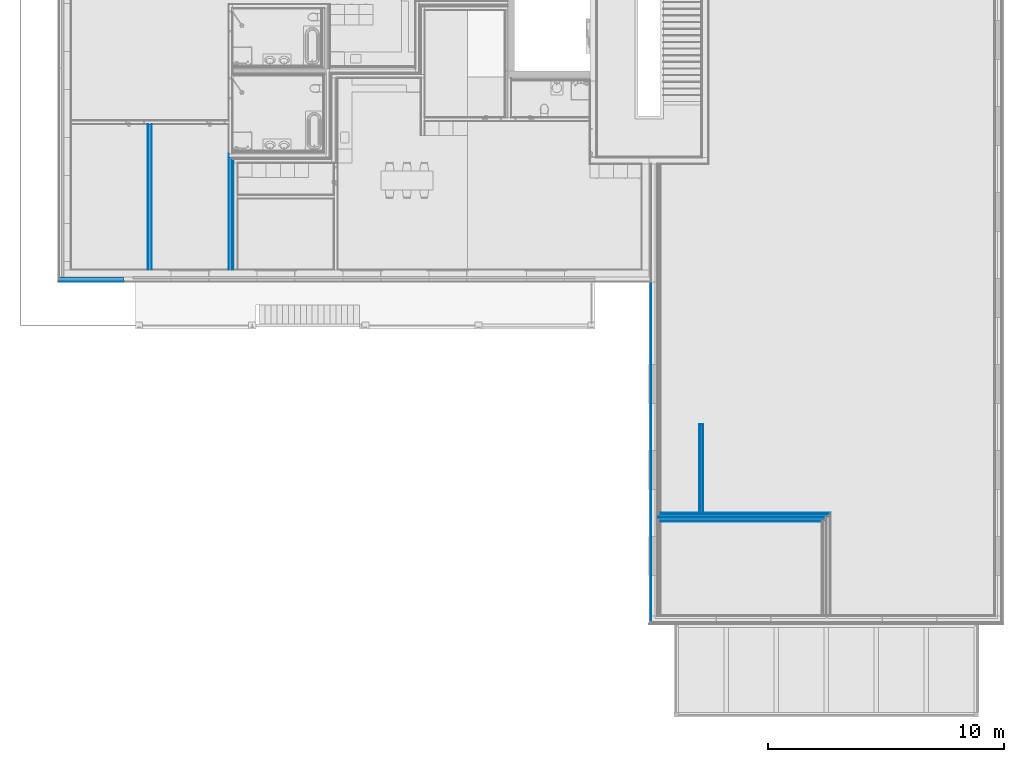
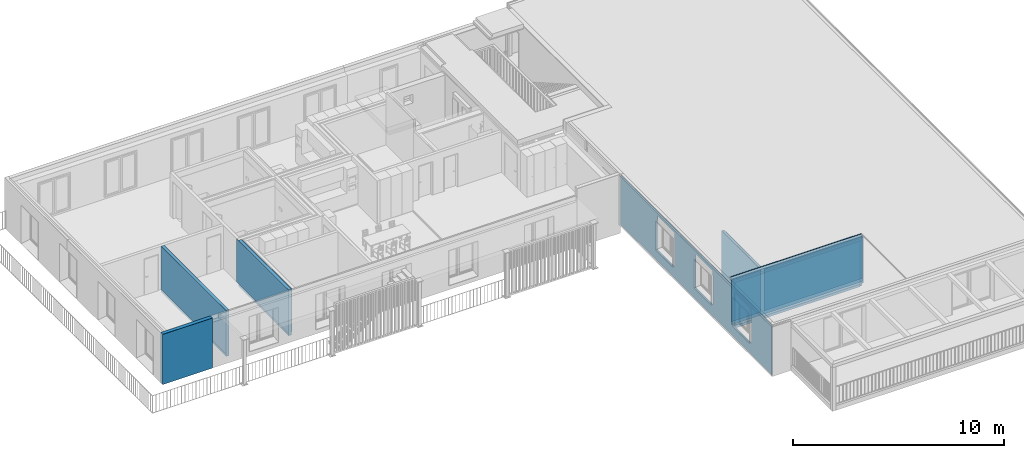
# One storey, part 3 of 34: 22 building element parts, 3 openings, 7 elements without a shape of their own.
"""IFC4 building model written with IfcOpenShell, lengths in millimetres."""

import ifcopenshell
import ifcopenshell.guid

model = None  # the IFC model being written
_history = None  # IfcOwnerHistory: only IFC2X3 demands one
_inside = {}  # id of a spatial element -> (the spatial element, [elements in it])
_under = {}  # id of a project, library or spatial element -> (it, [spatial elements below it])
_declared = {}  # id of a project -> (the project, [libraries it declares])
_typed = {}  # id of a type object -> (the type object, [elements of that type])
_made_of = {}  # id of a material, layer set ... -> (it, [elements and type objects made of it])


def new_model(schema):
    """Start an empty IFC model of exactly this schema.

    Asked for "IFC4X3", IfcOpenShell would pick the latest addendum, in which some entities
    have other attributes; the version numbers below select the first issue.
    IFC2X3 requires an IfcOwnerHistory on every rooted entity: one is made here for all.
    """
    global model, _history
    if schema == "IFC4X3":
        model = ifcopenshell.file(schema_version=(4, 3, 0, 0))
    else:
        model = ifcopenshell.file(schema=schema)
    _inside.clear()
    _under.clear()
    _declared.clear()
    _typed.clear()
    _made_of.clear()
    _history = None
    if model.schema == "IFC2X3":
        org = make("IfcOrganization", Name="unknown")
        user = make(
            "IfcPersonAndOrganization",
            ThePerson=make("IfcPerson", FamilyName="unknown"),
            TheOrganization=org,
        )
        app = make(
            "IfcApplication",
            ApplicationDeveloper=org,
            Version="unknown",
            ApplicationFullName="unknown",
            ApplicationIdentifier="unknown",
        )
        _history = make(
            "IfcOwnerHistory",
            OwningUser=user,
            OwningApplication=app,
            ChangeAction="ADDED",
            CreationDate=0,
        )
    return model


def make(cls, **values):
    """One entity of the class cls with the attributes given. An attribute that is None is left unset."""
    return model.create_entity(
        cls, **{name: value for name, value in values.items() if value is not None}
    )


def entity(cls, *values):
    """Any entity or typed value of the class cls, its attributes in the order of the schema. None: left unset."""
    e = model.create_entity(cls)
    for i, value in enumerate(values):
        if value is not None:
            e[i] = value
    return e


def rooted(cls, **values):
    """An entity with a GlobalId (a new one), such as an element, a storey or a relation."""
    return make(cls, GlobalId=ifcopenshell.guid.new(), OwnerHistory=_history, **values)


def si_unit(unit_type, name, prefix=None):
    """IfcSIUnit, for example si_unit("LENGTHUNIT", "METRE", prefix="MILLI")."""
    return make("IfcSIUnit", UnitType=unit_type, Prefix=prefix, Name=name)


def converted_unit(unit_type, name, factor, base, dimensions=None, offset=None):
    """IfcConversionBasedUnit, such as the inch: factor (a typed value) times the base unit."""
    return make(
        "IfcConversionBasedUnit"
        if offset is None
        else "IfcConversionBasedUnitWithOffset",
        ConversionOffset=offset,
        Dimensions=None
        if dimensions is None
        else entity("IfcDimensionalExponents", *dimensions),
        UnitType=unit_type,
        Name=name,
        ConversionFactor=make(
            "IfcMeasureWithUnit", ValueComponent=factor, UnitComponent=base
        ),
    )


def derived_unit(unit_type, elements):
    """IfcDerivedUnit: a product of units, each with its exponent."""
    return make(
        "IfcDerivedUnit",
        Elements=[
            make("IfcDerivedUnitElement", Unit=unit, Exponent=power)
            for unit, power in elements
        ],
        UnitType=unit_type,
    )


def assignment(units):
    """IfcUnitAssignment: the units of a project."""
    return None if units is None else make("IfcUnitAssignment", Units=units)


def point(xyz):
    """IfcCartesianPoint."""
    return None if xyz is None else make("IfcCartesianPoint", Coordinates=xyz)


def direction(xyz):
    """IfcDirection."""
    return None if xyz is None else make("IfcDirection", DirectionRatios=xyz)


def frame(location, z_axis=None, x_axis=None):
    """IfcAxis2Placement3D, a coordinate frame: its origin and axes. An axis left out is left unset."""
    return make(
        "IfcAxis2Placement3D",
        Location=point(location),
        Axis=direction(z_axis),
        RefDirection=direction(x_axis),
    )


def origin_with_axes():
    """The frame at (0, 0, 0) with the z axis (0, 0, 1) and the x axis (1, 0, 0) written out."""
    return frame((0.0, 0.0, 0.0), z_axis=(0.0, 0.0, 1.0), x_axis=(1.0, 0.0, 0.0))


def place(relative_to, where):
    """IfcLocalPlacement: puts the frame where relative to a parent placement (None: the world)."""
    return make(
        "IfcLocalPlacement", PlacementRelTo=relative_to, RelativePlacement=where
    )


def context(
    kind, dimensions, precision=None, world=None, true_north=None, identifier=None
):
    """IfcGeometricRepresentationContext, for example the 3D "Model" context."""
    return make(
        "IfcGeometricRepresentationContext",
        ContextIdentifier=identifier,
        ContextType=kind,
        CoordinateSpaceDimension=dimensions,
        Precision=precision,
        WorldCoordinateSystem=world,
        TrueNorth=true_north,
    )


def subcontext(parent, identifier, kind, view, scale=None):
    """IfcGeometricRepresentationSubContext, for example "Body" below "Model"."""
    return make(
        "IfcGeometricRepresentationSubContext",
        ContextIdentifier=identifier,
        ContextType=kind,
        ParentContext=parent,
        TargetScale=scale,
        TargetView=view,
    )


def project(units=None, contexts=None):
    """IfcProject with its units and contexts."""
    return rooted(
        "IfcProject",
        Name="project",
        RepresentationContexts=contexts,
        UnitsInContext=assignment(units),
    )


def spatial(cls, under=None, at=None, **own):
    """A site, building, storey or space (cls), placed at a placement, below another one or the project."""
    s = rooted(cls, ObjectPlacement=at, **own)
    if under is not None:
        _under.setdefault(under.id(), (under, []))[1].append(s)
    return s


def point_list(points):
    """IfcCartesianPointList2D or 3D."""
    cls = (
        "IfcCartesianPointList2D" if len(points[0]) == 2 else "IfcCartesianPointList3D"
    )
    return make(cls, CoordList=points)


def polygons(points, faces, closed=None, point_numbers=None):
    """IfcPolygonalFaceSet: a face is its outer loop, then its inner loops; points numbered from 1."""
    made = []
    for loops in faces:
        if len(loops) == 1:
            made.append(make("IfcIndexedPolygonalFace", CoordIndex=loops[0]))
        else:
            made.append(
                make(
                    "IfcIndexedPolygonalFaceWithVoids",
                    CoordIndex=loops[0],
                    InnerCoordIndices=loops[1:],
                )
            )
    return make(
        "IfcPolygonalFaceSet",
        Coordinates=point_list(points),
        Closed=closed,
        Faces=made,
        PnIndex=point_numbers,
    )


def shape(context_of_items, identifier, shape_type, items):
    """IfcShapeRepresentation: the items that make up one representation, for example the "Body"."""
    return make(
        "IfcShapeRepresentation",
        ContextOfItems=context_of_items,
        RepresentationIdentifier=identifier,
        RepresentationType=shape_type,
        Items=items,
    )


def material(Name=None, Category=None):
    """IfcMaterial."""
    return make("IfcMaterial", Name=Name, Category=Category)


def made_of(thing, what):
    """Note that an element or type object is made of a material, layer set ...; save() writes the relation."""
    if what is not None:
        _made_of.setdefault(what.id(), (what, []))[1].append(thing)
    return thing


def type_object(cls, material=None, **own):
    """A type object (cls), such as IfcWallType, which elements share."""
    return made_of(rooted(cls, **own), material)


def element(
    cls,
    number,
    at=None,
    inside=None,
    cuts=None,
    type_object=None,
    material=None,
    context=None,
    identifier="Body",
    shape_type=None,
    held_by="IfcProductDefinitionShape",
    body=None,
    shapes=None,
    **own,
):
    """One element of the class cls, such as IfcWall. Its Tag is "e" and its number.

    at: its placement. inside: the storey or other place that contains it. cuts: it is an
    opening in that element (IfcRelVoidsElement). A single representation is given by context,
    identifier, shape_type and body (its items); several are given by shapes. held_by: the class
    of the entity that holds the representations. save() writes the other relations.
    """
    e = rooted(cls, Tag="e%d" % number, ObjectPlacement=at, **own)
    if body is not None:
        shapes = [shape(context, identifier, shape_type, body)]
    if shapes is not None:
        e.Representation = make(held_by, Representations=shapes)
    if inside is not None:
        _inside.setdefault(inside.id(), (inside, []))[1].append(e)
    if cuts is not None:
        rooted(
            "IfcRelVoidsElement", RelatingBuildingElement=cuts, RelatedOpeningElement=e
        )
    if type_object is not None:
        _typed.setdefault(type_object.id(), (type_object, []))[1].append(e)
    return made_of(e, material)


def aggregate(whole, parts):
    """IfcRelAggregates: a whole, such as a stair, and the parts it consists of."""
    return rooted("IfcRelAggregates", RelatingObject=whole, RelatedObjects=parts)


def save(model, path):
    """Write the relations noted so far, then the file.

    IfcRelAggregates (storeys below a building ...), IfcRelContainedInSpatialStructure (elements
    in a storey), IfcRelDefinesByType, IfcRelAssociatesMaterial and IfcRelDeclares: one each for
    every whole, place, type object, material and project.
    """
    for whole, parts in _under.values():
        aggregate(whole, parts)
    for where, things in _inside.values():
        rooted(
            "IfcRelContainedInSpatialStructure",
            RelatedElements=things,
            RelatingStructure=where,
        )
    for kind, things in _typed.values():
        rooted("IfcRelDefinesByType", RelatedObjects=things, RelatingType=kind)
    for what, things in _made_of.values():
        rooted("IfcRelAssociatesMaterial", RelatedObjects=things, RelatingMaterial=what)
    for by, libraries in _declared.values():
        rooted("IfcRelDeclares", RelatingContext=by, RelatedDefinitions=libraries)
    model.write(path)


model = new_model("IFC4")

# Units and contexts
model_context = context("Model", 3, precision=0.01, world=origin_with_axes(), true_north=direction((0.0, 1.0)))
body_context = subcontext(model_context, "Body", "Model", "MODEL_VIEW")
ifc_project = project(units=[si_unit("LENGTHUNIT", "METRE", prefix="MILLI"), si_unit("AREAUNIT", "SQUARE_METRE"), si_unit("VOLUMEUNIT", "CUBIC_METRE"), converted_unit("PLANEANGLEUNIT", "DEGREE", entity("IfcPlaneAngleMeasure", 0.0174532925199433), si_unit("PLANEANGLEUNIT", "RADIAN"), dimensions=[0, 0, 0, 0, 0, 0, 0]), converted_unit("TIMEUNIT", "Year", entity("IfcTimeMeasure", 31557600.0), si_unit("TIMEUNIT", "SECOND"), dimensions=[0, 0, 1, 0, 0, 0, 0]), si_unit("MASSUNIT", "GRAM", prefix="KILO"), si_unit("THERMODYNAMICTEMPERATUREUNIT", "DEGREE_CELSIUS"), si_unit("LUMINOUSINTENSITYUNIT", "LUMEN"), si_unit("ENERGYUNIT", "JOULE", prefix="MEGA"), derived_unit("THERMALCONDUCTANCEUNIT", [(si_unit("POWERUNIT", "WATT"), 1), (si_unit("LENGTHUNIT", "METRE"), -1), (si_unit("THERMODYNAMICTEMPERATUREUNIT", "KELVIN"), -1)]), derived_unit("SPECIFICHEATCAPACITYUNIT", [(si_unit("ENERGYUNIT", "JOULE"), 1), (si_unit("MASSUNIT", "GRAM", prefix="KILO"), -1), (si_unit("THERMODYNAMICTEMPERATUREUNIT", "KELVIN"), -1)]), derived_unit("MASSDENSITYUNIT", [(si_unit("MASSUNIT", "GRAM", prefix="KILO"), 1), (si_unit("VOLUMEUNIT", "CUBIC_METRE"), -1)])], contexts=[model_context])

# Site, building, storey
site_placement = place(None, origin_with_axes())
site = spatial("IfcSite", under=ifc_project, at=site_placement, Name="Gelände", CompositionType="ELEMENT")
building_placement = place(site_placement, origin_with_axes())
building = spatial("IfcBuilding", under=site, at=building_placement, Name="Gebäude", CompositionType="ELEMENT")
storey_placement = place(building_placement, frame((0.0, 0.0, 5799.999999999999), z_axis=(0.0, 0.0, 1.0), x_axis=(1.0, 0.0, 0.0)))
storey = spatial("IfcBuildingStorey", under=building, at=storey_placement, Name="2.OG", CompositionType="ELEMENT", Elevation=5800.0)

# Curtain wall, building element parts
curtain_wall_type = type_object("IfcCurtainWallType", Name="Fassade Typ 01 - Kompaktfassade 210", PredefinedType="NOTDEFINED")
curtain_wall_placement = place(storey_placement, frame((-7071.004181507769, 22947.59674077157, 0.0), z_axis=(0.0, 0.0, 1.0), x_axis=(1.0, 0.0, 0.0)))
curtain_wall = element("IfcCurtainWall", 1, at=curtain_wall_placement, inside=storey, type_object=curtain_wall_type, Name="Wand-014", PredefinedType="NOTDEFINED")
ifc_material_1 = material(Name="Dämmung Aussen")
building_element_part_1_placement = place(curtain_wall_placement, origin_with_axes())
building_element_part_1 = element("IfcBuildingElementPart", 2, at=building_element_part_1_placement, material=ifc_material_1, Name="Dämmung Aussen", PredefinedType="NOTDEFINED", context=body_context, shape_type="Tessellation", body=[
    polygons([(2745.800000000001, 210.0000000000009, 0.0), (2745.800000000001, 10.00000000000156, 0.0), (9.999999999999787, 10.00000000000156, 0.0), (9.999999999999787, 210.0000000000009, 0.0), (2745.800000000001, 210.0000000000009, 2900.0), (2745.800000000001, 10.00000000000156, 2900.0), (9.999999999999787, 10.00000000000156, 2900.0), (9.999999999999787, 210.0000000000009, 2900.0)], [[[1, 2, 3, 4]], [[1, 5, 6, 2]], [[2, 6, 7, 3]], [[4, 3, 7, 8]], [[5, 1, 4, 8]], [[6, 5, 8, 7]]], closed=True),
])
ifc_material_2 = material(Name="Zementputz Aussen")
building_element_part_2_placement = place(curtain_wall_placement, origin_with_axes())
building_element_part_2 = element("IfcBuildingElementPart", 3, at=building_element_part_2_placement, material=ifc_material_2, Name="Zementputz Aussen", PredefinedType="NOTDEFINED", context=body_context, shape_type="Tessellation", body=[
    polygons([(2745.800000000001, 10.00000000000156, 0.0), (2745.800000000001, 0.0, 0.0), (0.0, 0.0, 0.0), (0.0, 10.00000000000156, 0.0), (2745.800000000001, 10.00000000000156, 2900.0), (2745.800000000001, 0.0, 2900.0), (0.0, 0.0, 2900.0), (0.0, 10.00000000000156, 2900.0)], [[[1, 2, 3, 4]], [[1, 5, 6, 2]], [[2, 6, 7, 3]], [[4, 3, 7, 8]], [[5, 1, 4, 8]], [[6, 5, 8, 7]]], closed=True),
])
aggregate(curtain_wall, [building_element_part_1, building_element_part_2])

# Wall, building element parts
wall_type_1 = type_object("IfcWallType", Name="Innenwand Typ 01 154", PredefinedType="NOTDEFINED")
wall_1_placement = place(storey_placement, frame((20053.50474128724, 13160.59728131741, 500.0), z_axis=(0.0, 0.0, 1.0), x_axis=(0.0, 1.0, 0.0)))
wall_1 = element("IfcWall", 4, at=wall_1_placement, inside=storey, type_object=wall_type_1, Name="Wand-014", PredefinedType="NOTDEFINED")
ifc_material_3 = material(Name="Dreischichtplatte DSP")
building_element_part_3_placement = place(wall_1_placement, origin_with_axes())
building_element_part_3 = element("IfcBuildingElementPart", 5, at=building_element_part_3_placement, material=ifc_material_3, Name="Dreischichtplatte DSP", PredefinedType="NOTDEFINED", context=body_context, shape_type="Tessellation", body=[
    polygons([(3761.05371447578, -126.9999999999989, 2578.999948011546), (3761.05371447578, -153.9999999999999, 2578.999948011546), (3761.05371447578, -153.9999999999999, 0.0), (3761.05371447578, -126.9999999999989, 0.0), (-9.999999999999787, -153.9999999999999, 2578.999948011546), (-9.999999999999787, -126.9999999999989, 2578.999948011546), (-9.999999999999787, -153.9999999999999, 0.0), (-9.999999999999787, -126.9999999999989, 0.0)], [[[1, 2, 3, 4]], [[5, 2, 1, 6]], [[2, 5, 7, 3]], [[8, 4, 3, 7]], [[6, 1, 4, 8]], [[5, 6, 8, 7]]], closed=True),
])
building_element_part_4_placement = place(wall_1_placement, origin_with_axes())
building_element_part_4 = element("IfcBuildingElementPart", 6, at=building_element_part_4_placement, material=ifc_material_3, Name="Dreischichtplatte DSP", PredefinedType="NOTDEFINED", context=body_context, shape_type="Tessellation", body=[
    polygons([(3761.05371447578, 0.0, 2578.999948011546), (3761.05371447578, -27.00000000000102, 2578.999948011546), (3761.05371447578, -27.00000000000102, 0.0), (3761.05371447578, 0.0, 0.0), (-9.999999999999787, -27.00000000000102, 2578.999948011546), (-9.999999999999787, 0.0, 2578.999948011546), (-9.999999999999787, -27.00000000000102, 0.0), (-9.999999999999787, 0.0, 0.0)], [[[1, 2, 3, 4]], [[5, 2, 1, 6]], [[2, 5, 7, 3]], [[8, 4, 3, 7]], [[6, 1, 4, 8]], [[5, 6, 8, 7]]], closed=True),
])
ifc_material_4 = material(Name="Ständer Konstruktion gedämmt")
building_element_part_5_placement = place(wall_1_placement, origin_with_axes())
building_element_part_5 = element("IfcBuildingElementPart", 7, at=building_element_part_5_placement, material=ifc_material_4, Name="Ständer Konstruktion gedämmt", PredefinedType="NOTDEFINED", context=body_context, shape_type="Tessellation", body=[
    polygons([(3761.05371447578, -27.00000000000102, 2578.999948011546), (3761.05371447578, -126.9999999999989, 2578.999948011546), (3761.05371447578, -126.9999999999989, 0.0), (3761.05371447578, -27.00000000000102, 0.0), (-9.999999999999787, -126.9999999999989, 2578.999948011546), (-9.999999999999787, -27.00000000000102, 2578.999948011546), (-9.999999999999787, -126.9999999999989, 0.0), (-9.999999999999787, -27.00000000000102, 0.0)], [[[1, 2, 3, 4]], [[5, 2, 1, 6]], [[2, 5, 7, 3]], [[8, 4, 3, 7]], [[6, 1, 4, 8]], [[5, 6, 8, 7]]], closed=True),
])
aggregate(wall_1, [building_element_part_3, building_element_part_4, building_element_part_5])

wall_type_2 = type_object("IfcWallType", Name="Trennwand Typ 01 186", PredefinedType="NOTDEFINED")
wall_2_placement = place(storey_placement, frame((18307.99744477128, 12788.59728131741, 500.0), z_axis=(0.0, 0.0, 1.0), x_axis=(1.0, 0.0, 0.0)))
wall_2 = element("IfcWall", 8, at=wall_2_placement, inside=storey, type_object=wall_type_2, Name="Wand-014", PredefinedType="NOTDEFINED")
ifc_material_5 = material(Name="Dämmung Innen")
building_element_part_6_placement = place(wall_2_placement, origin_with_axes())
building_element_part_6 = element("IfcBuildingElementPart", 9, at=building_element_part_6_placement, material=ifc_material_5, Name="Dämmung Innen", PredefinedType="NOTDEFINED", context=body_context, shape_type="Tessellation", body=[
    polygons([(7120.999999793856, 166.0000000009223, 150.0000000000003), (7120.999999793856, 186.0000000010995, 150.0000000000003), (7120.999999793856, 186.0000000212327, 2900.0), (7120.999999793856, 166.0000000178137, 2900.0), (104.9999999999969, 186.000000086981, 150.0000000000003), (104.9999999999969, 166.0000000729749, 150.0000000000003), (104.9999999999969, 186.0000015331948, 2643.999948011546), (0.0, 186.0000015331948, 2643.999948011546), (0.0, 186.0000015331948, 2900.0), (0.0, 166.0000012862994, 2900.0), (0.0, 166.0000011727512, 2643.999948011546), (104.9999999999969, 166.0000012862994, 2643.999948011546)], [[[1, 2, 3, 4]], [[5, 2, 1, 6]], [[2, 5, 7, 8, 9, 3]], [[4, 3, 9, 10]], [[6, 1, 4, 10, 11, 12]], [[5, 6, 12, 7]], [[8, 7, 12, 11]], [[9, 8, 11, 10]]], closed=True),
])
ifc_material_6 = material(Name="Gipsfaserplatte GFP")
building_element_part_7_placement = place(wall_2_placement, origin_with_axes())
building_element_part_7 = element("IfcBuildingElementPart", 10, at=building_element_part_7_placement, material=ifc_material_6, Name="Gipsfaserplatte GFP", PredefinedType="NOTDEFINED", context=body_context, shape_type="Tessellation", body=[
    polygons([(104.9999999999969, 45.99999980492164, 2643.999948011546), (6980.999999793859, 45.99999999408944, 2643.999948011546), (6980.999999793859, 46.00000000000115, 0.0), (104.9999999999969, 45.99999999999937, 0.0), (6980.999999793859, 28.00000005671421, 2643.999948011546), (104.9999999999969, 28.00000187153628, 2643.999948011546), (6980.999999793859, 28.00000000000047, 0.0), (104.9999999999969, 28.00000000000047, 0.0)], [[[1, 2, 3, 4]], [[5, 2, 1, 6]], [[2, 5, 7, 3]], [[7, 8, 4, 3]], [[6, 1, 4, 8]], [[5, 6, 8, 7]]], closed=True),
])
building_element_part_8_placement = place(wall_2_placement, origin_with_axes())
building_element_part_8 = element("IfcBuildingElementPart", 11, at=building_element_part_8_placement, material=ifc_material_4, Name="Ständer Konstruktion gedämmt", PredefinedType="NOTDEFINED", context=body_context, shape_type="Tessellation", body=[
    polygons([(104.9999999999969, 165.9999999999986, 2643.999948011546), (7100.999999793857, 165.9999999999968, 2643.999948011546), (7100.999999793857, 166.0000000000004, 0.0), (104.9999999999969, 166.0000000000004, 0.0), (7100.999999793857, 45.99999999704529, 2643.999948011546), (104.9999999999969, 45.99999980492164, 2643.999948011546), (7100.99999979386, 46.00000000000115, 0.0), (104.9999999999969, 45.99999999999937, 0.0)], [[[1, 2, 3, 4]], [[5, 2, 1, 6]], [[2, 5, 7, 3]], [[7, 8, 4, 3]], [[6, 1, 4, 8]], [[5, 6, 8, 7]]], closed=True),
])
ifc_material_7 = material(Name="Gipskartonplatte GKP")
building_element_part_9_placement = place(wall_2_placement, origin_with_axes())
building_element_part_9 = element("IfcBuildingElementPart", 12, at=building_element_part_9_placement, material=ifc_material_7, Name="Gipskartonplatte GKP", PredefinedType="NOTDEFINED", context=body_context, shape_type="Tessellation", body=[
    polygons([(104.9999999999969, 28.00000187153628, 2643.999948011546), (6962.999999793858, 28.00000006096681, 2643.999948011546), (6962.999999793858, 28.00000000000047, 0.0), (104.9999999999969, 28.00000000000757, 0.0), (6962.999999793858, 10.00000000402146, 2643.999948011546), (104.9999999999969, 10.00000012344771, 2643.999948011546), (6962.999999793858, 9.999999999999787, 0.0), (104.9999999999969, 9.999999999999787, 0.0)], [[[1, 2, 3, 4]], [[5, 2, 1, 6]], [[2, 5, 7, 3]], [[7, 8, 4, 3]], [[6, 1, 4, 8]], [[5, 6, 8, 7]]], closed=True),
])

wall_3_placement = place(storey_placement, frame((18307.99744477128, 13160.59728131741, 500.0), z_axis=(0.0, 0.0, 1.0), x_axis=(1.0, 0.0, 0.0)))
wall_3 = element("IfcWall", 13, at=wall_3_placement, inside=storey, type_object=wall_type_2, Name="Wand-014", PredefinedType="NOTDEFINED")
ifc_material_8 = material(Name="Kalkzementputz Aussen")
building_element_part_10_placement = place(wall_3_placement, origin_with_axes())
building_element_part_10 = element("IfcBuildingElementPart", 14, at=building_element_part_10_placement, material=ifc_material_8, Name="Kalkzementputz Aussen", PredefinedType="NOTDEFINED", context=body_context, shape_type="Tessellation", body=[
    polygons([(114.9999999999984, 1.495502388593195e-06, 2578.999948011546), (1745.507296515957, 1.495502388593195e-06, 2578.999948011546), (1745.507296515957, 8.698108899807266e-08, 150.0000000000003), (114.9999999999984, 8.698108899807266e-08, 150.0000000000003), (1745.507296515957, -9.999998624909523, 2578.999948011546), (114.9999999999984, -9.999998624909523, 2578.999948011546), (1745.507296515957, -9.999999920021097, 150.0000000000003), (114.9999999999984, -9.999999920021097, 150.0000000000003)], [[[1, 2, 3, 4]], [[5, 2, 1, 6]], [[2, 5, 7, 3]], [[4, 3, 7, 8]], [[6, 1, 4, 8]], [[5, 6, 8, 7]]], closed=True),
    polygons([(1899.507296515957, 1.495502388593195e-06, 2578.999948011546), (7306.999999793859, 1.84101622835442e-08, 2578.999948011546), (7306.999999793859, 1.071143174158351e-09, 150.0000000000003), (1899.507296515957, 8.698108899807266e-08, 150.0000000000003), (7306.999999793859, -9.999999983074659, 2578.999948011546), (1899.507296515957, -9.999998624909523, 2578.999948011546), (7306.999999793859, -9.999999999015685, 150.0000000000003), (1899.507296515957, -9.999999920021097, 150.0000000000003)], [[[1, 2, 3, 4]], [[5, 2, 1, 6]], [[2, 5, 7, 3]], [[4, 3, 7, 8]], [[6, 1, 4, 8]], [[5, 6, 8, 7]]], closed=True),
])
building_element_part_11_placement = place(wall_3_placement, origin_with_axes())
building_element_part_11 = element("IfcBuildingElementPart", 15, at=building_element_part_11_placement, material=ifc_material_7, Name="Gipskartonplatte GKP", PredefinedType="NOTDEFINED", context=body_context, shape_type="Tessellation", body=[
    polygons([(105.000000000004, -9.999998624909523, 2578.999948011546), (7296.999999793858, -9.99999998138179, 2578.999948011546), (7296.999999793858, -9.999999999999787, 0.0), (104.9999999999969, -9.999999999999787, 0.0), (7296.999999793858, -28.00000000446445, 2578.999948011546), (105.000000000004, -28.0000003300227, 2578.999948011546), (7296.999999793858, -27.99999999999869, 0.0), (104.9999999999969, -28.00000000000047, 0.0)], [[[1, 2, 3, 4]], [[5, 2, 1, 6]], [[2, 5, 7, 3]], [[7, 8, 4, 3]], [[6, 1, 4, 8]], [[5, 6, 8, 7]]], closed=True),
    polygons([(7296.999999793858, -28.00000000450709, 2603.999948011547), (7296.999999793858, -9.999999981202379, 2603.999948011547), (7296.999999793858, -9.999999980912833, 2643.999948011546), (7296.999999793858, -28.00000000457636, 2643.999948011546), (105.000000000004, -9.999998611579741, 2603.999948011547), (105.000000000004, -28.00000033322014, 2603.999948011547), (104.9999999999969, -9.999998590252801, 2643.999948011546), (104.9999999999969, -28.0000003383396, 2643.999948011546)], [[[1, 2, 3, 4]], [[5, 2, 1, 6]], [[2, 5, 7, 3]], [[4, 3, 7, 8]], [[6, 1, 4, 8]], [[5, 6, 8, 7]]], closed=True),
])
building_element_part_12_placement = place(wall_3_placement, origin_with_axes())
building_element_part_12 = element("IfcBuildingElementPart", 16, at=building_element_part_12_placement, material=ifc_material_6, Name="Gipsfaserplatte GFP", PredefinedType="NOTDEFINED", context=body_context, shape_type="Tessellation", body=[
    polygons([(104.9999999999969, -28.0000003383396, 2643.999948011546), (7278.999999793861, -28.00000000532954, 2643.999948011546), (7278.999999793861, -27.99999999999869, 0.0), (104.9999999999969, -28.00000000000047, 0.0), (7278.999999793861, -45.9999999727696, 2643.999948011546), (104.9999999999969, -45.99999827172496, 2643.999948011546), (7278.999999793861, -45.99999999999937, 0.0), (104.9999999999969, -46.00000000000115, 0.0)], [[[1, 2, 3, 4]], [[5, 2, 1, 6]], [[2, 5, 7, 3]], [[7, 8, 4, 3]], [[6, 1, 4, 8]], [[5, 6, 8, 7]]], closed=True),
])
building_element_part_13_placement = place(wall_3_placement, origin_with_axes())
building_element_part_13 = element("IfcBuildingElementPart", 17, at=building_element_part_13_placement, material=ifc_material_5, Name="Dämmung Innen", PredefinedType="NOTDEFINED", context=body_context, shape_type="Tessellation", body=[
    polygons([(7140.999999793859, -185.9999999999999, 150.0000000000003), (7140.999999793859, -165.9999999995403, 150.0000000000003), (7140.999999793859, -165.9999999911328, 2900.0), (7140.999999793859, -185.9999999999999, 2900.0), (104.9999999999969, -165.999999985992, 150.0000000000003), (104.9999999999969, -185.9999999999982, 150.0000000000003), (104.9999999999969, -165.9999997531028, 2643.999948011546), (0.0, -165.9999997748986, 2643.999948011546), (0.0, -165.9999997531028, 2900.0), (0.0, -185.9999999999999, 2900.0), (0.0, -185.9999999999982, 2643.999948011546), (104.9999999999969, -185.9999999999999, 2643.999948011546)], [[[1, 2, 3, 4]], [[5, 2, 1, 6]], [[2, 5, 7, 8, 9, 3]], [[4, 3, 9, 10]], [[6, 1, 4, 10, 11, 12]], [[5, 6, 12, 7]], [[8, 7, 12, 11]], [[9, 8, 11, 10]]], closed=True),
])
building_element_part_14_placement = place(wall_3_placement, origin_with_axes())
building_element_part_14 = element("IfcBuildingElementPart", 18, at=building_element_part_14_placement, material=ifc_material_4, Name="Ständer Konstruktion gedämmt", PredefinedType="NOTDEFINED", context=body_context, shape_type="Tessellation", body=[
    polygons([(104.9999999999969, -45.99999827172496, 2643.999948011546), (7260.99999979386, -45.99999996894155, 2643.999948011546), (7260.99999979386, -45.99999999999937, 0.0), (104.9999999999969, -45.99999999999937, 0.0), (7260.99999979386, -165.9999999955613, 2643.999948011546), (104.9999999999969, -146.0000000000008, 2643.999948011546), (7160.999999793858, -146.0000000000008, 2643.999948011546), (7160.999999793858, -165.9999997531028, 2643.999948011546), (7260.99999979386, -166.0000000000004, 0.0), (104.9999999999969, -166.0000000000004, 0.0), (104.9999999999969, -165.9999997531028, 2643.999948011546), (0.0, -146.0000000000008, 2643.999948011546), (0.0, -146.0000000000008, 2899.999948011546), (7160.999999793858, -146.0000000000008, 2899.999948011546), (7160.999999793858, -165.9999999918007, 2899.999948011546), (0.0, -165.9999997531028, 2900.0), (0.0, -165.9999997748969, 2643.999948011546)], [[[1, 2, 3, 4]], [[5, 2, 1, 6, 7, 8]], [[2, 5, 9, 3]], [[9, 10, 4, 3]], [[6, 1, 4, 10, 11]], [[7, 6, 12, 13, 14]], [[8, 7, 14, 15]], [[8, 15, 16, 17, 11, 10, 9, 5]], [[12, 6, 11, 17]], [[12, 17, 16, 13]], [[14, 13, 16, 15]]], closed=True),
])
aggregate(wall_3, [building_element_part_10, building_element_part_11, building_element_part_12, building_element_part_13, building_element_part_14])

# Building element part
building_element_part_15_placement = place(wall_2_placement, origin_with_axes())
building_element_part_15 = element("IfcBuildingElementPart", 19, at=building_element_part_15_placement, material=ifc_material_8, Name="Kalkzementputz Aussen", PredefinedType="NOTDEFINED", context=body_context, shape_type="Tessellation", body=[
    polygons([(114.9999999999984, 10.00000012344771, 2643.999948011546), (6944.999999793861, 10.00000000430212, 2643.999948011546), (6944.999999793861, 10.00000000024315, 150.0000000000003), (114.9999999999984, 10.00000000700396, 150.0000000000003), (6944.999999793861, 0.0, 2643.999948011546), (114.9999999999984, 0.0, 2643.999948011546), (6944.999999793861, 0.0, 150.0000000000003), (114.9999999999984, 0.0, 150.0000000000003)], [[[1, 2, 3, 4]], [[5, 2, 1, 6]], [[2, 5, 7, 3]], [[4, 3, 7, 8]], [[6, 1, 4, 8]], [[5, 6, 8, 7]]], closed=True),
])

aggregate(wall_2, [building_element_part_6, building_element_part_7, building_element_part_8, building_element_part_9, building_element_part_15])

# Wall, building element parts
wall_type_3 = type_object("IfcWallType", Name="Trennwand Typ 03 - verputzt 200", PredefinedType="NOTDEFINED")
wall_4_placement = place(storey_placement, frame((122.9958184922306, 28364.37338563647, 0.0), z_axis=(0.0, 0.0, 1.0), x_axis=(0.0, -1.0, 0.0)))
wall_4 = element("IfcWall", 20, at=wall_4_placement, inside=storey, type_object=wall_type_3, Name="Wand-015", PredefinedType="NOTDEFINED")
ifc_material_9 = material(Name="MW, Backstein")
building_element_part_16_placement = place(wall_4_placement, origin_with_axes())
building_element_part_16 = element("IfcBuildingElementPart", 21, at=building_element_part_16_placement, material=ifc_material_9, Name="MW, Backstein", PredefinedType="NOTDEFINED", context=body_context, shape_type="Tessellation", body=[
    polygons([(4906.776644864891, 150.0000000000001, 0.0), (4906.776644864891, 0.0, 0.0), (149.9999999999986, 0.0, 0.0), (149.9999999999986, 150.0, 0.0), (4906.776644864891, 150.0000000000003, 2649.999948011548), (4906.776644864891, 0.0, 2649.999948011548), (149.9999999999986, 0.0, 2649.999948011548), (149.9999999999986, 150.0000000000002, 2649.999948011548)], [[[1, 2, 3, 4]], [[1, 5, 6, 2]], [[2, 6, 7, 3]], [[4, 3, 7, 8]], [[5, 1, 4, 8]], [[6, 5, 8, 7]]], closed=True),
])
building_element_part_17_placement = place(wall_4_placement, origin_with_axes())
building_element_part_17 = element("IfcBuildingElementPart", 22, at=building_element_part_17_placement, material=ifc_material_5, Name="Dämmung Innen", PredefinedType="NOTDEFINED", context=body_context, shape_type="Tessellation", body=[
    polygons([(4906.776644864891, 189.9999999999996, 150.0000000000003), (190.0000000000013, 189.9999999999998, 150.0000000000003), (190.0000000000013, 189.9999999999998, 2649.999948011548), (4906.776644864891, 190.0000000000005, 2649.999948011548), (190.0000000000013, 149.9999999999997, 150.0000000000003), (4906.776644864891, 150.0000000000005, 150.0000000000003), (190.0000000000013, 149.9999999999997, 2649.999948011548), (4906.776644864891, 150.0000000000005, 2649.999948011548)], [[[1, 2, 3, 4]], [[5, 2, 1, 6]], [[2, 5, 7, 3]], [[7, 8, 4, 3]], [[6, 1, 4, 8]], [[5, 6, 8, 7]]], closed=True),
])
building_element_part_18_placement = place(wall_4_placement, origin_with_axes())
building_element_part_18 = element("IfcBuildingElementPart", 23, at=building_element_part_18_placement, material=ifc_material_8, Name="Kalkzementputz Aussen", PredefinedType="NOTDEFINED", context=body_context, shape_type="Tessellation", body=[
    polygons([(4906.776644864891, 0.0, 150.0000000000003), (0.0, 0.0, 150.0000000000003), (0.0, 0.0, 2649.999948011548), (4906.776644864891, 0.0, 2649.999948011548), (0.0, -10.0000000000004, 150.0000000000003), (4906.776644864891, -9.999999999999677, 150.0000000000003), (0.0, -9.99999999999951, 2649.999948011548), (4906.776644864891, -9.999999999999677, 2649.999948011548)], [[[1, 2, 3, 4]], [[5, 2, 1, 6]], [[2, 5, 7, 3]], [[3, 7, 8, 4]], [[6, 1, 4, 8]], [[5, 6, 8, 7]]], closed=True),
])
aggregate(wall_4, [building_element_part_16, building_element_part_17, building_element_part_18])

wall_type_4 = type_object("IfcWallType", Name="Innenwand Typ 05 170", PredefinedType="NOTDEFINED")
wall_5_placement = place(storey_placement, frame((-3216.004181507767, 29785.08426010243, 0.0), z_axis=(0.0, 0.0, 1.0), x_axis=(0.0, -1.0, 0.0)))
wall_5 = element("IfcWall", 24, at=wall_5_placement, inside=storey, type_object=wall_type_4, Name="Wand-014", PredefinedType="NOTDEFINED")
building_element_part_19_placement = place(wall_5_placement, origin_with_axes())
building_element_part_19 = element("IfcBuildingElementPart", 25, at=building_element_part_19_placement, material=ifc_material_8, Name="Kalkzementputz Aussen", PredefinedType="NOTDEFINED", context=body_context, shape_type="Tessellation", body=[
    polygons([(6327.487519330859, 85.00000000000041, 150.0000000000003), (170.0000000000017, 84.99999999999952, 150.0000000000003), (170.0000000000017, 84.99999999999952, 2649.999948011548), (6327.487519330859, 85.00000000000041, 2649.999948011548), (170.0000000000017, 74.99999999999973, 150.0000000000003), (6327.487519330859, 75.00000000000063, 150.0000000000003), (170.0000000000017, 74.99999999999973, 2649.999948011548), (6327.487519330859, 75.00000000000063, 2649.999948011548)], [[[1, 2, 3, 4]], [[5, 2, 1, 6]], [[2, 5, 7, 3]], [[7, 8, 4, 3]], [[6, 1, 4, 8]], [[5, 6, 8, 7]]], closed=True),
])
building_element_part_20_placement = place(wall_5_placement, origin_with_axes())
building_element_part_20 = element("IfcBuildingElementPart", 26, at=building_element_part_20_placement, material=ifc_material_8, Name="Kalkzementputz Aussen", PredefinedType="NOTDEFINED", context=body_context, shape_type="Tessellation", body=[
    polygons([(6327.487519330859, -74.99999999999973, 150.0000000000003), (170.0000000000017, -75.00000000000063, 150.0000000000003), (170.0000000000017, -74.99999999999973, 2649.999948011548), (6327.487519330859, -74.99999999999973, 2649.999948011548), (170.0000000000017, -85.00000000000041, 150.0000000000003), (6327.487519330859, -84.99999999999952, 150.0000000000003), (170.0000000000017, -85.00000000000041, 2649.999948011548), (6327.487519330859, -84.99999999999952, 2649.999948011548)], [[[1, 2, 3, 4]], [[5, 2, 1, 6]], [[2, 5, 7, 3]], [[7, 8, 4, 3]], [[6, 1, 4, 8]], [[5, 6, 8, 7]]], closed=True),
])
building_element_part_21_placement = place(wall_5_placement, origin_with_axes())
building_element_part_21 = element("IfcBuildingElementPart", 27, at=building_element_part_21_placement, material=ifc_material_9, Name="MW, Backstein", PredefinedType="NOTDEFINED", context=body_context, shape_type="Tessellation", body=[
    polygons([(6327.487519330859, -74.99999999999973, 2649.999948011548), (6327.487519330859, 75.00000000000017, 2649.999948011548), (160.0000000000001, 75.00000000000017, 2649.999948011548), (160.0000000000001, -74.99999999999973, 2649.999948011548), (6327.487519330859, -74.99999999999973, 0.0), (6327.487519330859, 75.00000000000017, 0.0), (160.0000000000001, 75.00000000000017, 0.0), (160.0000000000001, -75.00000000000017, 0.0)], [[[1, 2, 3, 4]], [[1, 5, 6, 2]], [[2, 6, 7, 3]], [[4, 3, 7, 8]], [[5, 1, 4, 8]], [[6, 5, 8, 7]]], closed=True),
])
aggregate(wall_5, [building_element_part_19, building_element_part_20, building_element_part_21])

# Wall, openings, building element part
wall_type_5 = type_object("IfcWallType", Name="Aussenwand Typ 01 318", PredefinedType="NOTDEFINED")
wall_6_placement = place(storey_placement, frame((17999.99744477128, 22947.48446271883, 500.0), z_axis=(0.0, 0.0, 1.0), x_axis=(0.0, -1.0, 0.0)))
wall_6 = element("IfcWall", 28, at=wall_6_placement, inside=storey, type_object=wall_type_5, Name="Wand-014", PredefinedType="NOTDEFINED")
opening_1_placement = place(wall_6_placement, frame((11607.88718140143, 0.0, 740.0000000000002), z_axis=(0.0, 0.0, 1.0), x_axis=(1.0, 0.0, 0.0)))
element("IfcOpeningElement", 29, at=opening_1_placement, cuts=wall_6, Name="Fenster-004", context=body_context, identifier="Reference", shape_type="Tessellation", body=[
    polygons([(820.9999999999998, 249.9999999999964, 1621.0), (-820.9999999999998, 249.9999999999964, 1621.0), (-820.9999999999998, -1.000000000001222, 1621.0), (820.9999999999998, -1.000000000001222, 1621.0), (-800.0000000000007, 0.0, 1621.0), (-800.0000000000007, 149.9999999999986, 1621.0), (799.999999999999, 149.9999999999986, 1621.0), (799.999999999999, 0.0, 1621.0), (-820.9999999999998, 249.9999999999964, -59.99999999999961), (820.9999999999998, 249.9999999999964, -59.99999999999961), (920.9999999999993, 249.9999999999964, -59.99999999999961), (920.9999999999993, 249.9999999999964, 1721.0), (-920.9999999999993, 249.9999999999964, 1721.0), (-920.9999999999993, 249.9999999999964, -59.99999999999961), (-820.9999999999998, -1.000000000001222, -59.99999999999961), (820.9999999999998, -1.000000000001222, -59.99999999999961), (-800.0000000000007, 0.0, 1890.0), (-800.0000000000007, 149.9999999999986, 1890.0), (799.999999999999, 149.9999999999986, 1890.0), (799.999999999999, 0.0, 1890.0), (-920.9999999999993, 319.0000000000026, -59.99999999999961), (920.9999999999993, 319.0000000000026, -59.99999999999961), (920.9999999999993, 319.0000000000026, 1721.0), (-920.9999999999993, 319.0000000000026, 1721.0)], [[[1, 2, 3, 4], [5, 6, 7, 8]], [[9, 2, 1, 10, 11, 12, 13, 14]], [[2, 9, 15, 3]], [[3, 15, 16, 4]], [[10, 1, 4, 16]], [[6, 5, 17, 18]], [[7, 6, 18, 19]], [[8, 7, 19, 20]], [[5, 8, 20, 17]], [[10, 9, 14, 21, 22, 11]], [[12, 11, 22, 23]], [[13, 12, 23, 24]], [[14, 13, 24, 21]], [[9, 10, 16, 15]], [[20, 19, 18, 17]], [[23, 22, 21, 24]]], closed=True),
])
opening_2_placement = place(wall_6_placement, frame((7965.887181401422, 0.0, 740.0000000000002), z_axis=(0.0, 0.0, 1.0), x_axis=(1.0, 0.0, 0.0)))
element("IfcOpeningElement", 30, at=opening_2_placement, cuts=wall_6, Name="Fenster-004", context=body_context, identifier="Reference", shape_type="Tessellation", body=[
    polygons([(820.9999999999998, 250.0, 1621.0), (-820.9999999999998, 250.0, 1621.0), (-820.9999999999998, -1.000000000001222, 1621.0), (820.9999999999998, -1.000000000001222, 1621.0), (-800.0000000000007, 0.0, 1621.0), (-800.0000000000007, 150.0000000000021, 1621.0), (799.999999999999, 150.0000000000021, 1621.0), (799.999999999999, 0.0, 1621.0), (-820.9999999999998, 250.0, -59.99999999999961), (820.9999999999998, 250.0, -59.99999999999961), (920.9999999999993, 250.0, -59.99999999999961), (920.9999999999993, 250.0, 1721.0), (-920.9999999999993, 250.0, 1721.0), (-920.9999999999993, 250.0, -59.99999999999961), (-820.9999999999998, -1.000000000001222, -59.99999999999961), (820.9999999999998, -1.000000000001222, -59.99999999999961), (-800.0000000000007, 0.0, 1890.0), (-800.0000000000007, 150.0000000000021, 1890.0), (799.999999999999, 150.0000000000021, 1890.0), (799.999999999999, 0.0, 1890.0), (-920.9999999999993, 319.0000000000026, -59.99999999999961), (920.9999999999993, 319.0000000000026, -59.99999999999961), (920.9999999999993, 319.0000000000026, 1721.0), (-920.9999999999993, 319.0000000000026, 1721.0)], [[[1, 2, 3, 4], [5, 6, 7, 8]], [[9, 2, 1, 10, 11, 12, 13, 14]], [[2, 9, 15, 3]], [[3, 15, 16, 4]], [[10, 1, 4, 16]], [[6, 5, 17, 18]], [[7, 6, 18, 19]], [[8, 7, 19, 20]], [[5, 8, 20, 17]], [[10, 9, 14, 21, 22, 11]], [[12, 11, 22, 23]], [[13, 12, 23, 24]], [[14, 13, 24, 21]], [[9, 10, 16, 15]], [[20, 19, 18, 17]], [[23, 22, 21, 24]]], closed=True),
])
opening_3_placement = place(wall_6_placement, frame((4323.887181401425, 0.0, 740.0000000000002), z_axis=(0.0, 0.0, 1.0), x_axis=(1.0, 0.0, 0.0)))
element("IfcOpeningElement", 31, at=opening_3_placement, cuts=wall_6, Name="Fenster-004", context=body_context, identifier="Reference", shape_type="Tessellation", body=[
    polygons([(821.0000000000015, 250.0, 1621.0), (-821.0000000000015, 250.0, 1621.0), (-821.0000000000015, -1.000000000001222, 1621.0), (821.0000000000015, -1.000000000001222, 1621.0), (-800.0000000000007, 0.0, 1621.0), (-800.0000000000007, 150.0000000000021, 1621.0), (800.0000000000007, 150.0000000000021, 1621.0), (800.0000000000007, 0.0, 1621.0), (-821.0000000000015, 250.0, -59.99999999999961), (821.0000000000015, 250.0, -59.99999999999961), (920.9999999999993, 250.0, -59.99999999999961), (920.9999999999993, 250.0, 1721.0), (-920.9999999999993, 250.0, 1721.0), (-920.9999999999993, 250.0, -59.99999999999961), (-821.0000000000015, -1.000000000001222, -59.99999999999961), (821.0000000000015, -1.000000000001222, -59.99999999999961), (-800.0000000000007, 0.0, 1890.0), (-800.0000000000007, 150.0000000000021, 1890.0), (800.0000000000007, 150.0000000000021, 1890.0), (800.0000000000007, 0.0, 1890.0), (-920.9999999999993, 319.0000000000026, -59.99999999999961), (920.9999999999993, 319.0000000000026, -59.99999999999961), (920.9999999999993, 319.0000000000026, 1721.0), (-920.9999999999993, 319.0000000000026, 1721.0)], [[[1, 2, 3, 4], [5, 6, 7, 8]], [[9, 2, 1, 10, 11, 12, 13, 14]], [[2, 9, 15, 3]], [[3, 15, 16, 4]], [[10, 1, 4, 16]], [[6, 5, 17, 18]], [[7, 6, 18, 19]], [[8, 7, 19, 20]], [[5, 8, 20, 17]], [[10, 9, 14, 21, 22, 11]], [[12, 11, 22, 23]], [[13, 12, 23, 24]], [[14, 13, 24, 21]], [[9, 10, 16, 15]], [[20, 19, 18, 17]], [[23, 22, 21, 24]]], closed=True),
])
ifc_material_10 = material(Name="Grobspanplatte-OSB")
building_element_part_22_placement = place(wall_6_placement, origin_with_axes())
building_element_part_22 = element("IfcBuildingElementPart", 32, at=building_element_part_22_placement, material=ifc_material_10, Name="Grobspanplatte-OSB", PredefinedType="NOTDEFINED", context=body_context, shape_type="Tessellation", body=[
    polygons([(0.0, 18.00000000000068, 2900.0), (14410.88718140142, 17.99999999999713, 2900.0), (14410.88718140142, 17.99999999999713, 0.0), (0.0, 18.00000000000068, 0.0), (10786.88718140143, 17.99999999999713, 2361.0), (10786.88718140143, 17.99999999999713, 680.0000000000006), (12428.88718140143, 17.99999999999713, 680.0000000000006), (12428.88718140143, 17.99999999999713, 2361.0), (12407.88718140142, 17.99999999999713, 2361.0), (12407.88718140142, 18.00000000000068, 2630.000000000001), (10807.88718140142, 18.00000000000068, 2630.000000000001), (10807.88718140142, 17.99999999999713, 2361.0), (7165.887181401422, 17.99999999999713, 2630.000000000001), (7165.887181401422, 18.00000000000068, 2361.0), (7144.887181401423, 18.00000000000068, 2361.0), (7144.887181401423, 18.00000000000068, 680.0000000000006), (8786.887181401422, 18.00000000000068, 680.0000000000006), (8786.887181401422, 18.00000000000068, 2361.0), (8765.887181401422, 18.00000000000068, 2361.0), (8765.887181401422, 17.99999999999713, 2630.000000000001), (5123.887181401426, 17.99999999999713, 2361.0), (5123.887181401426, 18.00000000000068, 2630.000000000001), (3523.887181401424, 18.00000000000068, 2630.000000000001), (3523.887181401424, 17.99999999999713, 2361.0), (3502.887181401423, 17.99999999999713, 2361.0), (3502.887181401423, 17.99999999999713, 680.0000000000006), (5144.887181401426, 17.99999999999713, 680.0000000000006), (5144.887181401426, 17.99999999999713, 2361.0), (0.0, 0.0, 2900.0), (14410.88718140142, 0.0, 2900.0), (14410.88718140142, 0.0, 0.0), (0.0, 0.0, 0.0), (10786.88718140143, 0.0, 2361.0), (10786.88718140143, 0.0, 680.0000000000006), (12428.88718140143, 0.0, 680.0000000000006), (12428.88718140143, 0.0, 2361.0), (12407.88718140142, 0.0, 2361.0), (12407.88718140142, 0.0, 2630.000000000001), (10807.88718140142, 0.0, 2630.000000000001), (10807.88718140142, 0.0, 2361.0), (7165.887181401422, 0.0, 2630.000000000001), (7165.887181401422, 0.0, 2361.0), (7144.887181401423, 0.0, 2361.0), (7144.887181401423, 0.0, 680.0000000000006), (8786.887181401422, 0.0, 680.0000000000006), (8786.887181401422, 0.0, 2361.0), (8765.887181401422, 0.0, 2361.0), (8765.887181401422, 0.0, 2630.000000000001), (5123.887181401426, 0.0, 2361.0), (5123.887181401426, 0.0, 2630.000000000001), (3523.887181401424, 0.0, 2630.000000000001), (3523.887181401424, 0.0, 2361.0), (3502.887181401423, 0.0, 2361.0), (3502.887181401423, 0.0, 680.0000000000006), (5144.887181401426, 0.0, 680.0000000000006), (5144.887181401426, 0.0, 2361.0)], [[[1, 2, 3, 4], [5, 6, 7, 8, 9, 10, 11, 12], [13, 14, 15, 16, 17, 18, 19, 20], [21, 22, 23, 24, 25, 26, 27, 28]], [[29, 30, 2, 1]], [[30, 31, 3, 2]], [[4, 3, 31, 32]], [[29, 1, 4, 32]], [[5, 33, 34, 6]], [[6, 34, 35, 7]], [[7, 35, 36, 8]], [[37, 9, 8, 36]], [[10, 9, 37, 38]], [[11, 10, 38, 39]], [[12, 11, 39, 40]], [[12, 40, 33, 5]], [[41, 42, 14, 13]], [[43, 15, 14, 42]], [[44, 16, 15, 43]], [[45, 17, 16, 44]], [[46, 18, 17, 45]], [[18, 46, 47, 19]], [[47, 48, 20, 19]], [[48, 41, 13, 20]], [[22, 21, 49, 50]], [[23, 22, 50, 51]], [[24, 23, 51, 52]], [[24, 52, 53, 25]], [[25, 53, 54, 26]], [[26, 54, 55, 27]], [[27, 55, 56, 28]], [[49, 21, 28, 56]], [[32, 31, 30, 29], [34, 33, 40, 39, 38, 37, 36, 35], [46, 45, 44, 43, 42, 41, 48, 47], [50, 49, 56, 55, 54, 53, 52, 51]]], closed=True),
])
aggregate(wall_6, [building_element_part_22])

save(model, "model.ifc")
